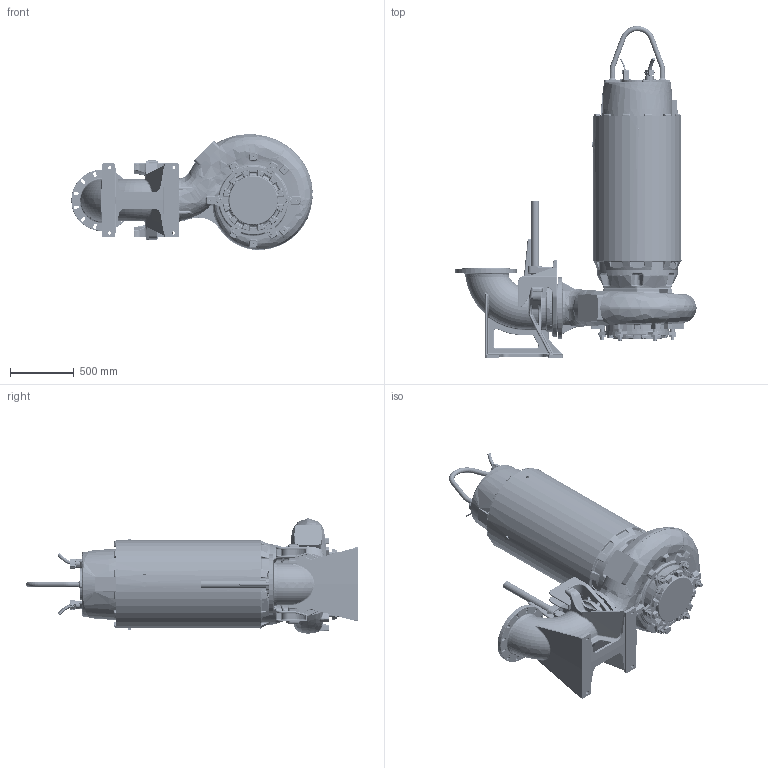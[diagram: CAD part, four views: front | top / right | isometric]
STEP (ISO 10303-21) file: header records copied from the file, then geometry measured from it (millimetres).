
FILE_DESCRIPTION (( 'STEP AP214' ), '1' );
FILE_NAME ('PE6_XFP305M-CB2_WET_B_NG2.STEP', '2017-03-21T08:48:49', ( '' ), ( '' ), 'SwSTEP 2.0', 'SolidWorks 2017', '' );
FILE_SCHEMA (( 'AUTOMOTIVE_DESIGN' ));
Length unit declared in the file: millimetre
Products named in the file (1): PE6_XFP305M-CB2_WET_B_NG2
Bounding box: 1889.63 x 2598 x 905.86 mm (x, y, z)
Volume: 98008019.8 mm3; surface area: 10695954.6 mm2
Topology: 34 solids, 35 shells, 6089 faces, 14916 edges, 8706 vertices
Faces by surface type: bspline 1579, cylinder 1560, plane 1396, torus 674, cone 622, sphere 258
Entity records: 343612 total; most frequent: CARTESIAN_POINT 147183, ORIENTED_EDGE 29154, DIRECTION 24627, EDGE_CURVE 14577, AXIS2_PLACEMENT_3D 10026, VERTEX_POINT 8698, EDGE_LOOP 6415, UNCERTAINTY_MEASURE_WITH_UNIT 6096
